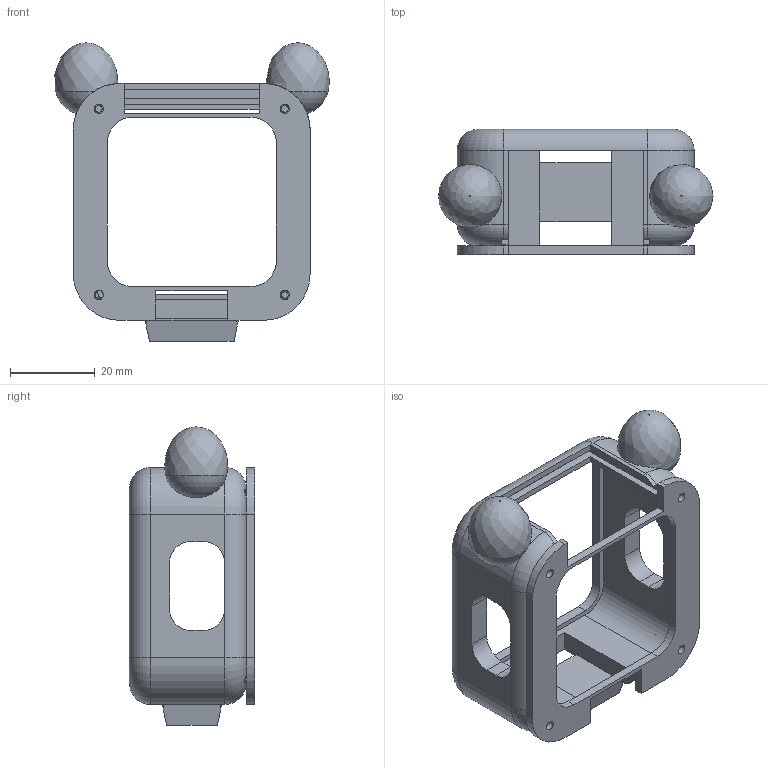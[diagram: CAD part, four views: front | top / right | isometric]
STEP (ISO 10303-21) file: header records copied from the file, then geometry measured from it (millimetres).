
FILE_DESCRIPTION(('Open CASCADE Model'),'2;1');
FILE_NAME('Open CASCADE Shape Model','2026-09-28T19:49:15',('Author'),( 'Open CASCADE'),'Open CASCADE STEP processor 7.8','Open CASCADE 7.8' ,'Unknown');
FILE_SCHEMA(('AUTOMOTIVE_DESIGN { 1 0 10303 214 1 1 1 1 }'));
Length unit declared in the file: millimetre
Products named in the file (1): Open CASCADE STEP translator 7.8 2
Bounding box: 64.84 x 29.6 x 70.49 mm (x, y, z)
Volume: 22997.8 mm3; surface area: 14986.1 mm2
Topology: 1 solids, 3 shells, 176 faces, 479 edges, 312 vertices
Faces by surface type: plane 91, cylinder 69, torus 8, bspline 6, sphere 2
Full cylindrical faces by diameter (mm): 1.6 x4, 2.2 x4, 2.4 x1
Entity records: 16614 total; most frequent: CARTESIAN_POINT 7257, DIRECTION 1683, LINE 967, VECTOR 967, ORIENTED_EDGE 958, PCURVE 958, DEFINITIONAL_REPRESENTATION 958, EDGE_CURVE 479
